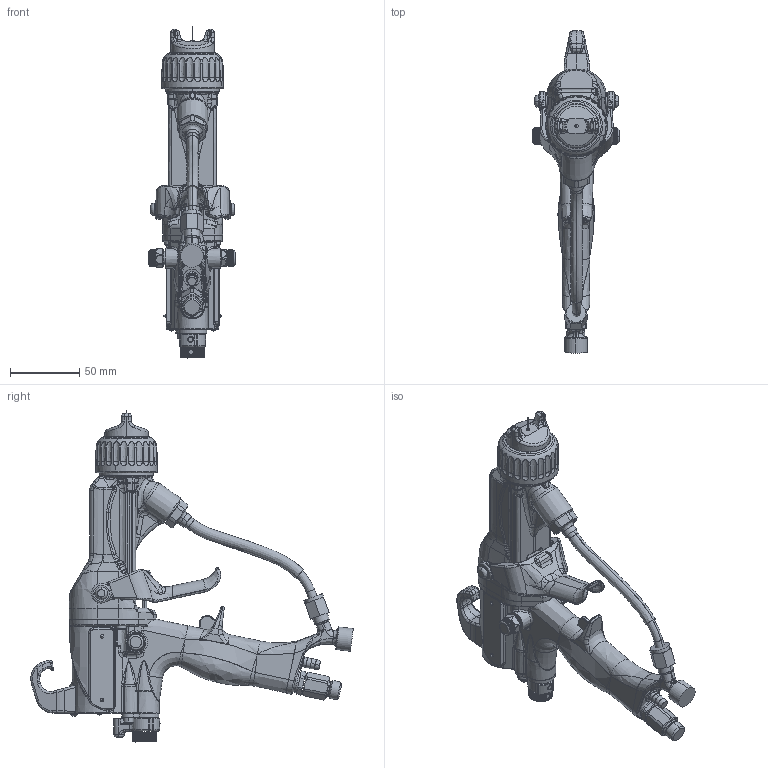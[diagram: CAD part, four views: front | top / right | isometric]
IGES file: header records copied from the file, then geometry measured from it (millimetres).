
Start section:  PTC IGES file: l60t10-en-u.igs
Global section: file name: l60t10-en-u.igs; native system: Creo Parametric by PTC Inc.; preprocessor: 2019030; author: qusrh3; organization: Unknown; date: 20200518.163523; units: inch
Bounding box: 62.61 x 233.22 x 240.18 mm (x, y, z)
Surface area: 91788.9 mm2 (no closed solid volume)
Topology: 0 solids, 0 shells, 2666 faces, 13381 edges, 13374 vertices
Faces by surface type: bspline 1420, revolution 1242, extrusion 4
